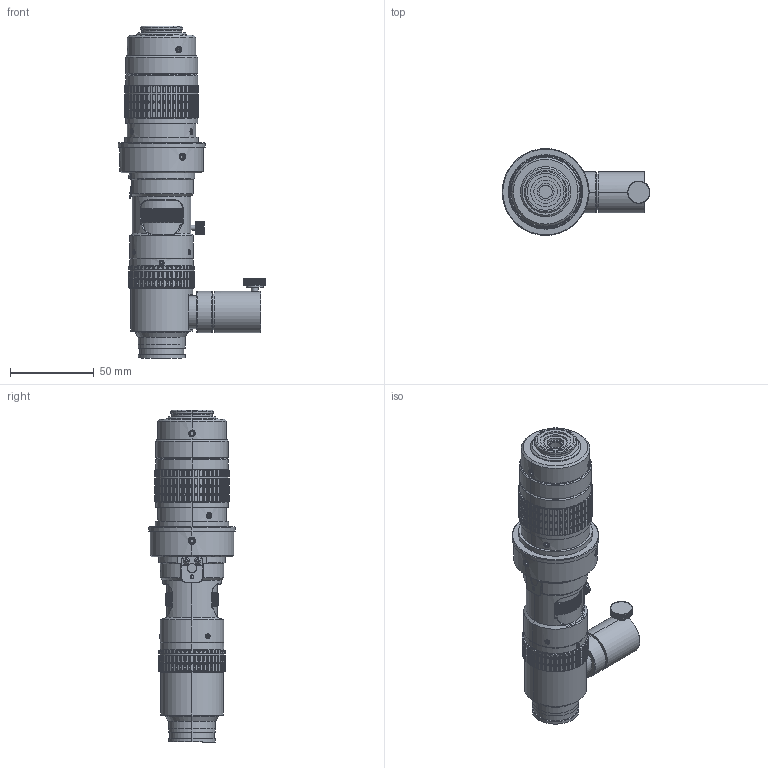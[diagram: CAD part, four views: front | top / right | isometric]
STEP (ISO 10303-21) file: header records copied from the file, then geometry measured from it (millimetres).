
FILE_DESCRIPTION(('STEP AP214'),'1');
FILE_NAME('SDS-Z.stp','2022-09-27T05:54:53',(' '),(' '),'Spatial InterOp 3D',' ',' ');
FILE_SCHEMA(('AUTOMOTIVE_DESIGN { 1 0 10303 214 1 1 1 1 }'));
Length unit declared in the file: metre
Products named in the file (4): SDS-Z; Component1; Component2; Component3
Assembly tree (3 placements, depth 2):
  SDS-Z
    Component1
    Component2
    Component3
Bounding box: 88.15 x 51.9 x 198.1 mm (x, y, z)
Volume: 220821.8 mm3; surface area: 61286.7 mm2
Topology: 3 solids, 3 shells, 6021 faces, 16407 edges, 10687 vertices
Faces by surface type: plane 3160, cylinder 2682, cone 132, bspline 34, torus 10, sphere 3
Entity records: 255358 total; most frequent: CARTESIAN_POINT 108369, ORIENTED_EDGE 32810, DIRECTION 27328, EDGE_CURVE 16405, VERTEX_POINT 10687, LINE 9768, VECTOR 9768, AXIS2_PLACEMENT_3D 8780
